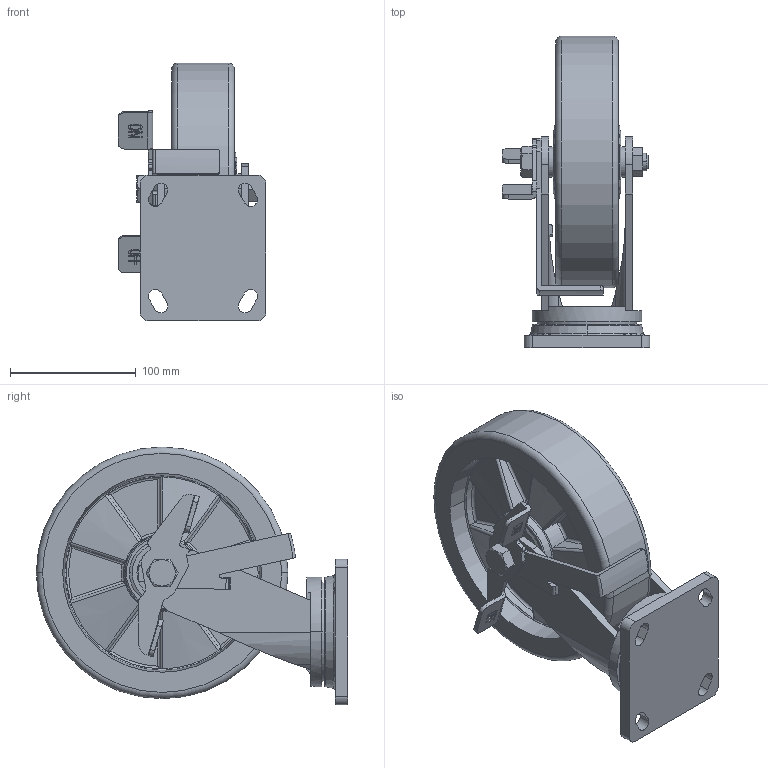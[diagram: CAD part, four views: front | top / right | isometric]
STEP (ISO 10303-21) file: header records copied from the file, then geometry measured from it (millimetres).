
FILE_DESCRIPTION((''),'2;1');
FILE_NAME('78128C-788-86A_ASM','2020-07-08T',('lenovo'),(''),'PRO/ENGINEER BY PARAMETRIC TECHNOLOGY CORPORATION, 2010280','PRO/ENGINEER BY PARAMETRIC TECHNOLOGY CORPORATION, 2010280','');
FILE_SCHEMA(('CONFIG_CONTROL_DESIGN'));
Length unit declared in the file: millimetre
Products named in the file (12): PRT0174; PRT0175; PRT0176; 788-86AB; PRODUCT_95295; PRT0177; PRT0178; PRT0179; 780F-33-; 78128C-788-86A__________ASM_ASM; 78128C-788-86A__ASM_ASM; 78128C-788-86A_ASM
Assembly tree (11 placements, depth 4):
  78128C-788-86A_ASM
    78128C-788-86A__ASM_ASM
      78128C-788-86A__________ASM_ASM
        PRT0174
        PRT0175
        PRT0176
        788-86AB
        PRODUCT_95295
        PRT0177
        PRT0178
        PRT0179
        780F-33-
Bounding box: 117.5 x 247.5 x 205 mm (x, y, z)
Volume: 1321407.2 mm3; surface area: 234269.4 mm2
Topology: 9 solids, 9 shells, 517 faces, 1341 edges, 860 vertices
Faces by surface type: plane 280, cylinder 153, torus 50, cone 32, bspline 2
Entity records: 16732 total; most frequent: CARTESIAN_POINT 3674, DIRECTION 2691, ORIENTED_EDGE 2682, EDGE_CURVE 1341, AXIS2_PLACEMENT_3D 932, VERTEX_POINT 860, VECTOR 827, LINE 827
